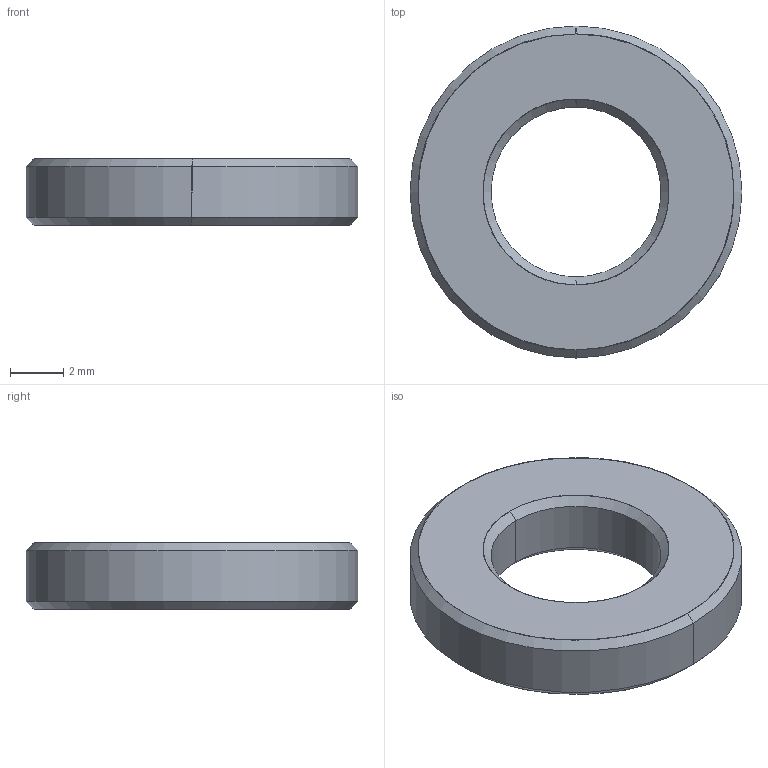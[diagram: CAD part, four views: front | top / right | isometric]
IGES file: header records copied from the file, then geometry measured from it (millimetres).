
Global section: file name: E:\UnigraphicsGraphicData\MISUMI_PRESS-PARTS\IGES\3d_wss6_00529_r00.igs; native system: NX V5.0; preprocessor: UGS NX IGES V5.0; author: MISUMI; date: 20110105.163508; units: millimetre
Bounding box: 12.5 x 12.5 x 2.5 mm (x, y, z)
Surface area: 309.1 mm2 (no closed solid volume)
Topology: 0 solids, 0 shells, 14 faces, 80 edges, 80 vertices
Faces by surface type: bspline 14
